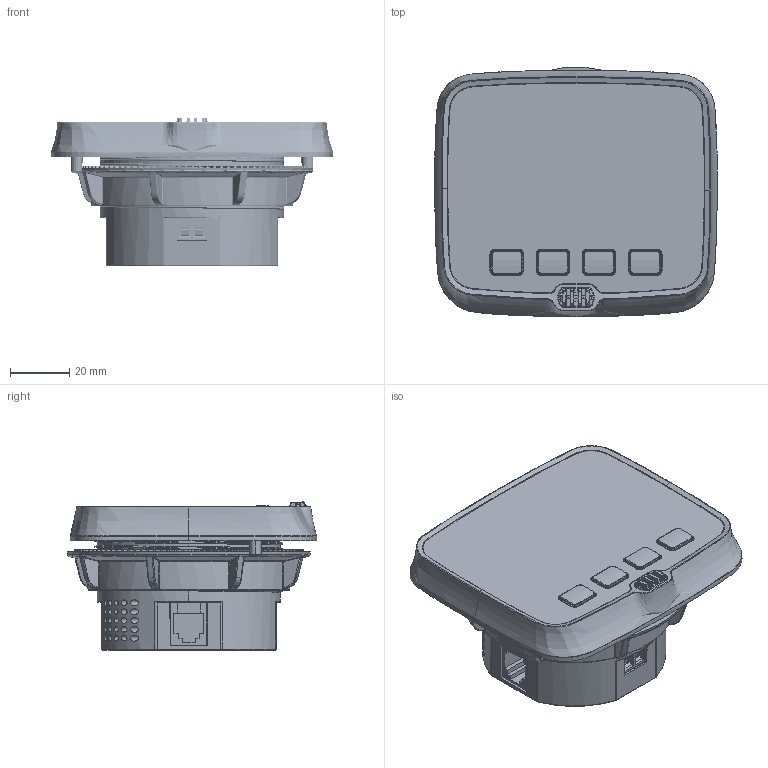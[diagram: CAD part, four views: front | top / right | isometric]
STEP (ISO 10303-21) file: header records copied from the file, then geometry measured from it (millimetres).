
FILE_DESCRIPTION (( 'STEP AP203' ), '1' );
FILE_NAME ('A2350-Temp Ass''y_20201028.STEP', '2020-10-28T08:09:58', ( '' ), ( '' ), 'SwSTEP 2.0', 'SolidWorks 2020', '' );
FILE_SCHEMA (( 'CONFIG_CONTROL_DESIGN' ));
Length unit declared in the file: millimetre
Products named in the file (35): Reset-Button; LCD; 蕾雖(曄寥0.2); Case-Rear(RJ12); pan cross head_ks_KS 1023 PC- M3 x 8-N; Bracket-Button; countersunk flat cross head screw_ks_KS 1023 FC- M2.6 x 8-N; Case-Front Ass''y; PCB-Sensor; RJ45-Vertical-Shield; MA321-500-2; RJ12 褒萄; PCB-Comm; PCB-Comm Ass''y; Button; LED; Bracket; JST?6243R?SMD(6.2 x 6.2)L=4.3; PA-N relay; LCD-Connecter(524352271); Button-Tape(YT-156CH); SBS-20P-2mm-4.5DS; Window; PH-20P-2mm-19.0DS12.0; Case-Front; Button Ass''y; PCB-Main Ass''y; LB230-G10S-B1R; Case-Rear(RJ12) Ass''y; PCB-Sensor Ass''y; A2350-Temp Ass''y_20201028; TM Sensor; PCB-Main; LB210-G10P-B1R; JST?6243R?SMD(6.2 x 6.2)L=8
Assembly tree (49 placements, depth 5):
  A2350-Temp Ass''y_20201028
    Case-Front Ass''y
      Case-Front
      LCD
      Button Ass''y
        Button
        Button-Tape(YT-156CH)
      Window
      PCB-Main Ass''y
        PCB-Main
        PCB-Sensor Ass''y
          PCB-Sensor
          TM Sensor
          LB210-G10P-B1R
          蕾雖(曄寥0.2)
        LED  x4
        JST?6243R?SMD(6.2 x 6.2)L=4.3  x4
        LCD-Connecter(524352271)
        SBS-20P-2mm-4.5DS
        LB230-G10S-B1R
      Bracket-Button
      PH-20P-2mm-19.0DS12.0
    Case-Rear(RJ12) Ass''y
      Case-Rear(RJ12)
      PCB-Comm Ass''y
        PCB-Comm
        RJ45-Vertical-Shield
        MA321-500-2  x2
        JST?6243R?SMD(6.2 x 6.2)L=8
        RJ12 褒萄  x2
        SBS-20P-2mm-4.5DS
        PA-N relay
      Reset-Button
      pan cross head_ks_KS 1023 PC- M3 x 8-N  x4
    Bracket
    countersunk flat cross head screw_ks_KS 1023 FC- M2.6 x 8-N  x4
Bounding box: 95.55 x 84.31 x 50.08 mm (x, y, z)
Volume: 98158.6 mm3; surface area: 119215.4 mm2
Topology: 43 solids, 43 shells, 6311 faces, 16743 edges, 10780 vertices
Faces by surface type: plane 4233, cylinder 887, cone 587, bspline 497, torus 99, sphere 8
Entity records: 243327 total; most frequent: CARTESIAN_POINT 106077, ORIENTED_EDGE 29394, DIRECTION 24789, EDGE_CURVE 14697, VECTOR 9873, LINE 9873, VERTEX_POINT 9504, AXIS2_PLACEMENT_3D 7458
